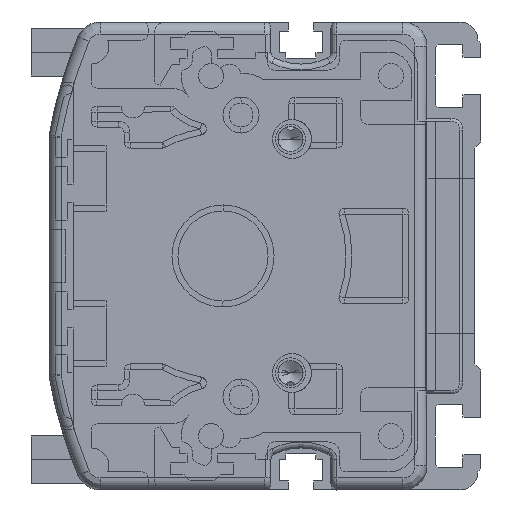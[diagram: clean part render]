
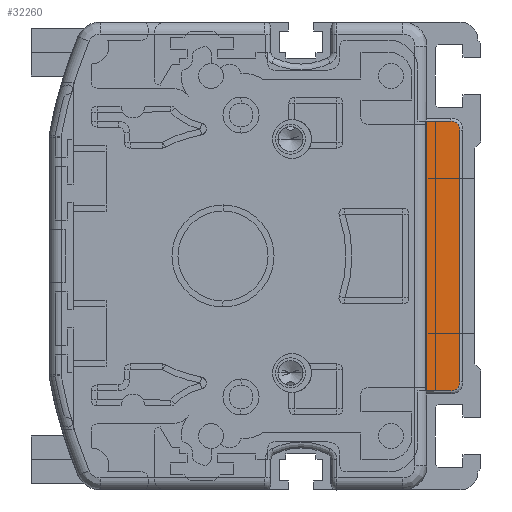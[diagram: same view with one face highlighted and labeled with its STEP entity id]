
A CAD part, left-side view. The second image highlights one B-rep face of the part: STEP entity #32260.
In plain terms, the highlighted planar face has unit normal (-1, 0, 0).
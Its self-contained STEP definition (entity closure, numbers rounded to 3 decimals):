
#26815=DIRECTION('',(0.,0.,-1.));
#26816=VECTOR('',#26815,45.);
#26817=CARTESIAN_POINT('',(-2.,10.268,22.5));
#26818=LINE('',#26817,#26816);
#26850=CARTESIAN_POINT('',(-2.,6.,21.));
#26851=DIRECTION('',(1.,0.,0.));
#26852=DIRECTION('',(0.,0.,1.));
#26853=AXIS2_PLACEMENT_3D('',#26850,#26851,#26852);
#26855=CARTESIAN_POINT('',(-2.,6.,-21.));
#26856=DIRECTION('',(1.,0.,0.));
#26857=DIRECTION('',(0.,-1.,0.));
#26858=AXIS2_PLACEMENT_3D('',#26855,#26856,#26857);
#26864=DIRECTION('',(0.,-1.,0.));
#26865=VECTOR('',#26864,4.268);
#26866=CARTESIAN_POINT('',(-2.,10.268,-22.5));
#26867=LINE('',#26866,#26865);
#27398=DIRECTION('',(0.,0.,1.));
#27399=VECTOR('',#27398,42.);
#27400=CARTESIAN_POINT('',(-2.,4.5,-21.));
#27401=LINE('',#27400,#27399);
#27421=DIRECTION('',(0.,1.,0.));
#27422=VECTOR('',#27421,4.268);
#27423=CARTESIAN_POINT('',(-2.,6.,22.5));
#27424=LINE('',#27423,#27422);
#30707=CARTESIAN_POINT('',(-2.,10.268,22.5));
#30708=CARTESIAN_POINT('',(-2.,10.268,-22.5));
#30709=VERTEX_POINT('',#30707);
#30710=VERTEX_POINT('',#30708);
#30720=CARTESIAN_POINT('',(-2.,6.,-22.5));
#30721=VERTEX_POINT('',#30720);
#30722=CARTESIAN_POINT('',(-2.,4.5,-21.));
#30723=VERTEX_POINT('',#30722);
#30724=CARTESIAN_POINT('',(-2.,4.5,21.));
#30725=VERTEX_POINT('',#30724);
#30726=CARTESIAN_POINT('',(-2.,6.,
22.5));
#30727=VERTEX_POINT('',#30726);
#32242=CARTESIAN_POINT('',(-2.,7.384,0.));
#32243=DIRECTION('',(1.,0.,0.));
#32244=DIRECTION('',(0.,0.,-1.));
#32245=AXIS2_PLACEMENT_3D('',#32242,#32243,#32244);
#32246=PLANE('',#32245);
#32248=ORIENTED_EDGE('',*,*,#32247,.F.);
#32249=ORIENTED_EDGE('',*,*,#32221,.F.);
#32251=ORIENTED_EDGE('',*,*,#32250,.F.);
#32253=ORIENTED_EDGE('',*,*,#32252,.T.);
#32255=ORIENTED_EDGE('',*,*,#32254,.F.);
#32257=ORIENTED_EDGE('',*,*,#32256,.T.);
#32258=EDGE_LOOP('',(#32248,#32249,#32251,#32253,#32255,#32257));
#32259=FACE_OUTER_BOUND('',#32258,.F.);
#32260=ADVANCED_FACE('',(#32259),#32246,.F.);
#26854=CIRCLE('',#26853,1.5);
#26859=CIRCLE('',#26858,1.5);
#32221=EDGE_CURVE('',#30709,#30710,#26818,.T.);
#32247=EDGE_CURVE('',#30710,#30721,#26867,.T.);
#32250=EDGE_CURVE('',#30727,#30709,#27424,.T.);
#32252=EDGE_CURVE('',#30727,#30725,#26854,.T.);
#32254=EDGE_CURVE('',#30723,#30725,#27401,.T.);
#32256=EDGE_CURVE('',#30723,#30721,#26859,.T.);
